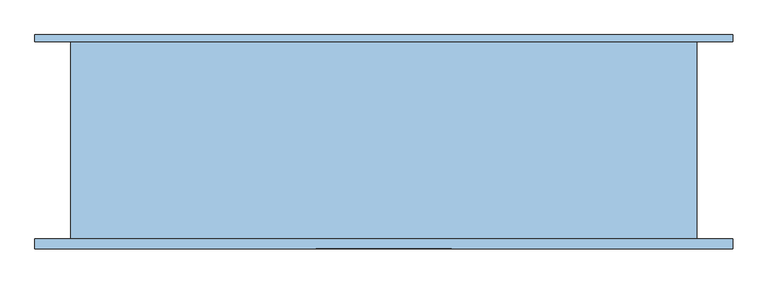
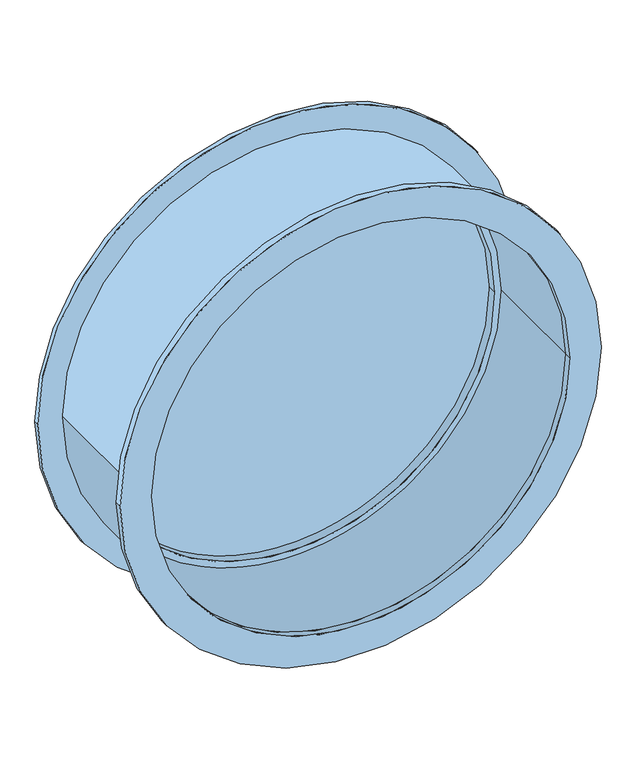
"""IFC4 building model written with IfcOpenShell, lengths in millimetres: window geometry, Круглый с подрезкой : Диаметр 1220мм."""

import ifcopenshell
import ifcopenshell.guid

model = None  # the IFC model being written
_history = None  # IfcOwnerHistory: only IFC2X3 demands one
_inside = {}  # id of a spatial element -> (the spatial element, [elements in it])
_under = {}  # id of a project, library or spatial element -> (it, [spatial elements below it])
_declared = {}  # id of a project -> (the project, [libraries it declares])
_typed = {}  # id of a type object -> (the type object, [elements of that type])
_made_of = {}  # id of a material, layer set ... -> (it, [elements and type objects made of it])


def new_model(schema):
    """Start an empty IFC model of exactly this schema.

    Asked for "IFC4X3", IfcOpenShell would pick the latest addendum, in which some entities
    have other attributes; the version numbers below select the first issue.
    IFC2X3 requires an IfcOwnerHistory on every rooted entity: one is made here for all.
    """
    global model, _history
    if schema == "IFC4X3":
        model = ifcopenshell.file(schema_version=(4, 3, 0, 0))
    else:
        model = ifcopenshell.file(schema=schema)
    _inside.clear()
    _under.clear()
    _declared.clear()
    _typed.clear()
    _made_of.clear()
    _history = None
    if model.schema == "IFC2X3":
        org = make("IfcOrganization", Name="unknown")
        user = make(
            "IfcPersonAndOrganization",
            ThePerson=make("IfcPerson", FamilyName="unknown"),
            TheOrganization=org,
        )
        app = make(
            "IfcApplication",
            ApplicationDeveloper=org,
            Version="unknown",
            ApplicationFullName="unknown",
            ApplicationIdentifier="unknown",
        )
        _history = make(
            "IfcOwnerHistory",
            OwningUser=user,
            OwningApplication=app,
            ChangeAction="ADDED",
            CreationDate=0,
        )
    return model


def make(cls, **values):
    """One entity of the class cls with the attributes given. An attribute that is None is left unset."""
    return model.create_entity(
        cls, **{name: value for name, value in values.items() if value is not None}
    )


def rooted(cls, **values):
    """An entity with a GlobalId (a new one), such as an element, a storey or a relation."""
    return make(cls, GlobalId=ifcopenshell.guid.new(), OwnerHistory=_history, **values)


def si_unit(unit_type, name, prefix=None):
    """IfcSIUnit, for example si_unit("LENGTHUNIT", "METRE", prefix="MILLI")."""
    return make("IfcSIUnit", UnitType=unit_type, Prefix=prefix, Name=name)


def assignment(units):
    """IfcUnitAssignment: the units of a project."""
    return None if units is None else make("IfcUnitAssignment", Units=units)


def point(xyz):
    """IfcCartesianPoint."""
    return None if xyz is None else make("IfcCartesianPoint", Coordinates=xyz)


def direction(xyz):
    """IfcDirection."""
    return None if xyz is None else make("IfcDirection", DirectionRatios=xyz)


def frame(location, z_axis=None, x_axis=None):
    """IfcAxis2Placement3D, a coordinate frame: its origin and axes. An axis left out is left unset."""
    return make(
        "IfcAxis2Placement3D",
        Location=point(location),
        Axis=direction(z_axis),
        RefDirection=direction(x_axis),
    )


def frame_2d(location, x_axis=None):
    """IfcAxis2Placement2D, a coordinate frame in the plane: its origin and x axis."""
    return make(
        "IfcAxis2Placement2D", Location=point(location), RefDirection=direction(x_axis)
    )


def origin():
    """The frame at (0, 0, 0) with its axes left unset."""
    return frame((0.0, 0.0, 0.0))


def place(relative_to, where):
    """IfcLocalPlacement: puts the frame where relative to a parent placement (None: the world)."""
    return make(
        "IfcLocalPlacement", PlacementRelTo=relative_to, RelativePlacement=where
    )


def context(
    kind, dimensions, precision=None, world=None, true_north=None, identifier=None
):
    """IfcGeometricRepresentationContext, for example the 3D "Model" context."""
    return make(
        "IfcGeometricRepresentationContext",
        ContextIdentifier=identifier,
        ContextType=kind,
        CoordinateSpaceDimension=dimensions,
        Precision=precision,
        WorldCoordinateSystem=world,
        TrueNorth=true_north,
    )


def project(units=None, contexts=None):
    """IfcProject with its units and contexts."""
    return rooted(
        "IfcProject",
        Name="project",
        RepresentationContexts=contexts,
        UnitsInContext=assignment(units),
    )


def spatial(cls, under=None, at=None, **own):
    """A site, building, storey or space (cls), placed at a placement, below another one or the project."""
    s = rooted(cls, ObjectPlacement=at, **own)
    if under is not None:
        _under.setdefault(under.id(), (under, []))[1].append(s)
    return s


def circle_curve(where, radius):
    """IfcCircle in the frame where."""
    return make("IfcCircle", Position=where, Radius=radius)


def trimmed(basis, trim1, trim2, sense, master):
    """IfcTrimmedCurve: the piece of a basis curve between two trims."""
    return make(
        "IfcTrimmedCurve",
        BasisCurve=basis,
        Trim1=trim1,
        Trim2=trim2,
        SenseAgreement=sense,
        MasterRepresentation=master,
    )


def segment(curve, same_sense, transition):
    """IfcCompositeCurveSegment."""
    return make(
        "IfcCompositeCurveSegment",
        Transition=transition,
        SameSense=same_sense,
        ParentCurve=curve,
    )


def composite_curve(segments, self_intersect=None):
    """IfcCompositeCurve: segments joined end to end."""
    return make("IfcCompositeCurve", Segments=segments, SelfIntersect=self_intersect)


def outline(outer, holes=None, kind="AREA"):
    """IfcArbitraryClosedProfileDef: a profile drawn as a closed curve; with holes, ...WithVoids."""
    if holes is None:
        return make("IfcArbitraryClosedProfileDef", ProfileType=kind, OuterCurve=outer)
    return make(
        "IfcArbitraryProfileDefWithVoids",
        ProfileType=kind,
        OuterCurve=outer,
        InnerCurves=holes,
    )


def extrude(swept, where, along, depth):
    """IfcExtrudedAreaSolid: the profile swept, set in the frame where, extruded along a direction by depth."""
    return make(
        "IfcExtrudedAreaSolid",
        SweptArea=swept,
        Position=where,
        ExtrudedDirection=direction(along),
        Depth=depth,
    )


def shape(context_of_items, identifier, shape_type, items):
    """IfcShapeRepresentation: the items that make up one representation, for example the "Body"."""
    return make(
        "IfcShapeRepresentation",
        ContextOfItems=context_of_items,
        RepresentationIdentifier=identifier,
        RepresentationType=shape_type,
        Items=items,
    )


def source(mapping_origin, context_of_items, identifier, shape_type, items):
    """IfcRepresentationMap: a shape defined once, which mapped items show again and again."""
    return make(
        "IfcRepresentationMap",
        MappingOrigin=mapping_origin,
        MappedRepresentation=shape(context_of_items, identifier, shape_type, items),
    )


def transform(
    local_origin,
    x_axis=None,
    y_axis=None,
    z_axis=None,
    scale=None,
    scale2=None,
    scale3=None,
    uniform=True,
):
    """IfcCartesianTransformationOperator3D, or its non-uniform kind. x_axis, y_axis, z_axis: its Axis1, 2, 3."""
    if uniform:
        return make(
            "IfcCartesianTransformationOperator3D",
            Axis1=direction(x_axis),
            Axis2=direction(y_axis),
            LocalOrigin=point(local_origin),
            Scale=scale,
            Axis3=direction(z_axis),
        )
    return make(
        "IfcCartesianTransformationOperator3DnonUniform",
        Axis1=direction(x_axis),
        Axis2=direction(y_axis),
        LocalOrigin=point(local_origin),
        Scale=scale,
        Axis3=direction(z_axis),
        Scale2=scale2,
        Scale3=scale3,
    )


def mapped(mapping_source, mapping_target):
    """IfcMappedItem: shows the shape of a source again, moved by a transform."""
    return make(
        "IfcMappedItem", MappingSource=mapping_source, MappingTarget=mapping_target
    )


def made_of(thing, what):
    """Note that an element or type object is made of a material, layer set ...; save() writes the relation."""
    if what is not None:
        _made_of.setdefault(what.id(), (what, []))[1].append(thing)
    return thing


def element(
    cls,
    number,
    at=None,
    inside=None,
    cuts=None,
    type_object=None,
    material=None,
    context=None,
    identifier="Body",
    shape_type=None,
    held_by="IfcProductDefinitionShape",
    body=None,
    shapes=None,
    **own,
):
    """One element of the class cls, such as IfcWall. Its Tag is "e" and its number.

    at: its placement. inside: the storey or other place that contains it. cuts: it is an
    opening in that element (IfcRelVoidsElement). A single representation is given by context,
    identifier, shape_type and body (its items); several are given by shapes. held_by: the class
    of the entity that holds the representations. save() writes the other relations.
    """
    e = rooted(cls, Tag="e%d" % number, ObjectPlacement=at, **own)
    if body is not None:
        shapes = [shape(context, identifier, shape_type, body)]
    if shapes is not None:
        e.Representation = make(held_by, Representations=shapes)
    if inside is not None:
        _inside.setdefault(inside.id(), (inside, []))[1].append(e)
    if cuts is not None:
        rooted(
            "IfcRelVoidsElement", RelatingBuildingElement=cuts, RelatedOpeningElement=e
        )
    if type_object is not None:
        _typed.setdefault(type_object.id(), (type_object, []))[1].append(e)
    return made_of(e, material)


def aggregate(whole, parts):
    """IfcRelAggregates: a whole, such as a stair, and the parts it consists of."""
    return rooted("IfcRelAggregates", RelatingObject=whole, RelatedObjects=parts)


def save(model, path):
    """Write the relations noted so far, then the file.

    IfcRelAggregates (storeys below a building ...), IfcRelContainedInSpatialStructure (elements
    in a storey), IfcRelDefinesByType, IfcRelAssociatesMaterial and IfcRelDeclares: one each for
    every whole, place, type object, material and project.
    """
    for whole, parts in _under.values():
        aggregate(whole, parts)
    for where, things in _inside.values():
        rooted(
            "IfcRelContainedInSpatialStructure",
            RelatedElements=things,
            RelatingStructure=where,
        )
    for kind, things in _typed.values():
        rooted("IfcRelDefinesByType", RelatedObjects=things, RelatingType=kind)
    for what, things in _made_of.values():
        rooted("IfcRelAssociatesMaterial", RelatedObjects=things, RelatingMaterial=what)
    for by, libraries in _declared.values():
        rooted("IfcRelDeclares", RelatingContext=by, RelatedDefinitions=libraries)
    model.write(path)


def window_33548029(model_context):
    return source(origin(), model_context, "Body", "SweptSolid", [
        extrude(outline(composite_curve([segment(trimmed(circle_curve(frame_2d((1220.0, 152.8)), 679.95), [point((1220.0, -527.15))], [point((1220.0, 832.75))], False, "CARTESIAN"), True, "CONTINUOUS"), segment(trimmed(circle_curve(frame_2d((1220.0, 152.8)), 679.95), [point((1220.0, 832.75))], [point((1220.0, -527.15))], False, "CARTESIAN"), True, "CONTINUOUS")], self_intersect=False), holes=[composite_curve([segment(trimmed(circle_curve(frame_2d((1220.0, 152.8)), 590.95), [point((1220.0, -438.15))], [point((1220.0, 743.75))], True, "CARTESIAN"), True, "CONTINUOUS"), segment(trimmed(circle_curve(frame_2d((1220.0, 152.8)), 590.95), [point((1220.0, 743.75))], [point((1220.0, -438.15))], True, "CARTESIAN"), True, "CONTINUOUS")], self_intersect=False)]), frame((0.0, -211.5, 0.0), z_axis=(0.0, 1.0, 0.0), x_axis=(0.0, 0.0, 1.0)), (0.0, 0.0, 1.0), 19.0),
        extrude(outline(composite_curve([segment(trimmed(circle_curve(frame_2d((1220.0, 152.8)), 679.95), [point((1220.0, -527.15))], [point((1220.0, 832.75))], False, "CARTESIAN"), True, "CONTINUOUS"), segment(trimmed(circle_curve(frame_2d((1220.0, 152.8)), 679.95), [point((1220.0, 832.75))], [point((1220.0, -527.15))], False, "CARTESIAN"), True, "CONTINUOUS")], self_intersect=False), holes=[composite_curve([segment(trimmed(circle_curve(frame_2d((1220.0, 152.8)), 590.95), [point((1220.0, -438.15))], [point((1220.0, 743.75))], True, "CARTESIAN"), True, "CONTINUOUS"), segment(trimmed(circle_curve(frame_2d((1220.0, 152.8)), 590.95), [point((1220.0, 743.75))], [point((1220.0, -438.15))], True, "CARTESIAN"), True, "CONTINUOUS")], self_intersect=False)]), frame((0.0, 192.5, 0.0), z_axis=(0.0, 1.0, 0.0), x_axis=(0.0, 0.0, 1.0)), (0.0, 0.0, 1.0), 13.0),
        extrude(outline(composite_curve([segment(trimmed(circle_curve(frame_2d((1220.0, 152.8)), 610.0), [point((1220.0, -457.2))], [point((1220.0, 762.8))], False, "CARTESIAN"), True, "CONTINUOUS"), segment(trimmed(circle_curve(frame_2d((1220.0, 152.8)), 610.0), [point((1220.0, 762.8))], [point((1220.0, -457.2))], False, "CARTESIAN"), True, "CONTINUOUS")], self_intersect=False), holes=[composite_curve([segment(trimmed(circle_curve(frame_2d((1220.0, 152.8)), 590.95), [point((1220.0, -438.15))], [point((1220.0, 743.75))], True, "CARTESIAN"), True, "CONTINUOUS"), segment(trimmed(circle_curve(frame_2d((1220.0, 152.8)), 590.95), [point((1220.0, 743.75))], [point((1220.0, -438.15))], True, "CARTESIAN"), True, "CONTINUOUS")], self_intersect=False)]), frame((0.0, -192.5, 0.0), z_axis=(0.0, 1.0, 0.0), x_axis=(0.0, 0.0, 1.0)), (0.0, 0.0, 1.0), 385.0),
        extrude(outline(composite_curve([segment(trimmed(circle_curve(frame_2d((1220.0, 152.8)), 590.95), [point((1220.0, -438.15))], [point((1220.0, 743.75))], False, "CARTESIAN"), True, "CONTINUOUS"), segment(trimmed(circle_curve(frame_2d((1220.0, 152.8)), 590.95), [point((1220.0, 743.75))], [point((1220.0, -438.15))], False, "CARTESIAN"), True, "CONTINUOUS")], self_intersect=False), holes=[composite_curve([segment(trimmed(circle_curve(frame_2d((1220.0, 152.8)), 571.9), [point((1220.0, -419.1))], [point((1220.0, 724.7))], True, "CARTESIAN"), True, "CONTINUOUS"), segment(trimmed(circle_curve(frame_2d((1220.0, 152.8)), 571.9), [point((1220.0, 724.7))], [point((1220.0, -419.1))], True, "CARTESIAN"), True, "CONTINUOUS")], self_intersect=False)]), frame((0.0, 122.7, 0.0), z_axis=(0.0, 1.0, 0.0), x_axis=(0.0, 0.0, 1.0)), (0.0, 0.0, 1.0), 50.8),
        extrude(outline(composite_curve([segment(trimmed(circle_curve(frame_2d((1220.0, 152.8)), 571.9), [point((1220.0, -419.1))], [point((1220.0, 724.7))], False, "CARTESIAN"), True, "CONTINUOUS"), segment(trimmed(circle_curve(frame_2d((1220.0, 152.8)), 571.9), [point((1220.0, 724.7))], [point((1220.0, -419.1))], False, "CARTESIAN"), True, "CONTINUOUS")], self_intersect=False)), frame((0.0, 148.1, 0.0), z_axis=(0.0, 1.0, 0.0), x_axis=(0.0, 0.0, 1.0)), (0.0, 0.0, 1.0), 12.7),
    ])


if __name__ == "__main__":
    model = new_model("IFC4")
    model_context = context("Model", 3, world=origin())
    ifc_project = project(units=[si_unit("LENGTHUNIT", "METRE", prefix="MILLI")], contexts=[model_context])
    site = spatial("IfcSite", under=ifc_project)
    building = spatial("IfcBuilding", under=site)
    placement = place(None, origin())
    window_shape = window_33548029(model_context)
    element("IfcWindow", 1, ObjectType="Круглый с подрезкой : Диаметр 1220мм", at=placement, inside=building, context=model_context, shape_type="MappedRepresentation", body=[
        mapped(window_shape, transform((0.0, 0.0, 0.0), x_axis=(1.0, 0.0, 0.0), y_axis=(0.0, 1.0, 0.0), z_axis=(0.0, 0.0, 1.0))),
    ])
    save(model, "model.ifc")
